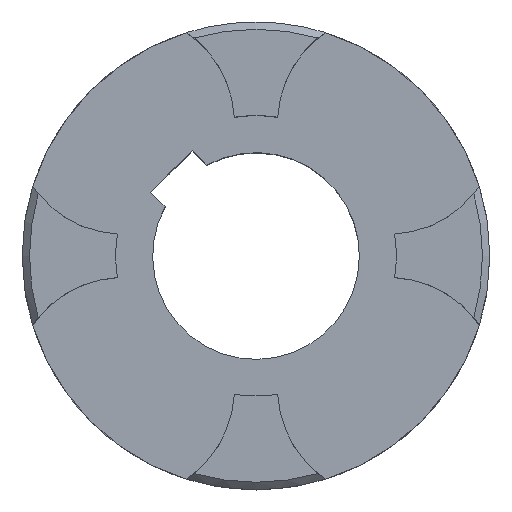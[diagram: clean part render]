
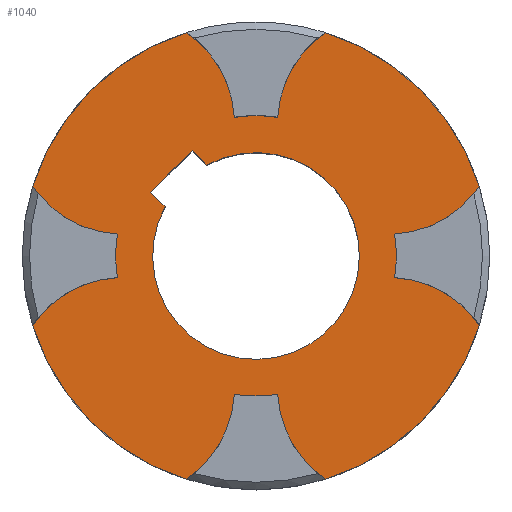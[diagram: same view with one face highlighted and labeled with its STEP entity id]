
A CAD part, top view. The second image highlights one B-rep face of the part: STEP entity #1040.
In plain terms, the highlighted planar face has unit normal (0, 0, 1).
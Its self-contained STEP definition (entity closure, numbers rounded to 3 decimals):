
#213=CARTESIAN_POINT('',(0.,0.,0.));
#214=DIRECTION('',(0.,0.,1.));
#215=DIRECTION('',(-0.988,0.155,0.));
#216=AXIS2_PLACEMENT_3D('',#213,#214,#215);
#248=CARTESIAN_POINT('',(0.,0.,0.));
#249=DIRECTION('',(0.,0.,1.));
#250=DIRECTION('',(0.988,-0.155,0.));
#251=AXIS2_PLACEMENT_3D('',#248,#249,#250);
#275=CARTESIAN_POINT('',(26.87,26.87,0.));
#276=DIRECTION('',(0.,0.,-1.));
#277=DIRECTION('',(0.822,-0.569,0.));
#278=AXIS2_PLACEMENT_3D('',#275,#276,#277);
#280=CARTESIAN_POINT('',(26.87,-26.87,0.));
#281=DIRECTION('',(0.,0.,-1.));
#282=DIRECTION('',(0.057,0.998,0.));
#283=AXIS2_PLACEMENT_3D('',#280,#281,#282);
#285=CARTESIAN_POINT('',(0.,0.,0.));
#286=DIRECTION('',(0.,0.,-1.));
#287=DIRECTION('',(0.955,-0.296,0.));
#288=AXIS2_PLACEMENT_3D('',#285,#286,#287);
#290=CARTESIAN_POINT('',(26.87,-26.87,0.));
#291=DIRECTION('',(0.,0.,-1.));
#292=DIRECTION('',(-0.569,-0.822,0.));
#293=AXIS2_PLACEMENT_3D('',#290,#291,#292);
#295=CARTESIAN_POINT('',(0.,0.,0.));
#296=DIRECTION('',(0.,0.,-1.));
#297=DIRECTION('',(0.155,-0.988,0.));
#298=AXIS2_PLACEMENT_3D('',#295,#296,#297);
#300=CARTESIAN_POINT('',(-26.87,-26.87,0.));
#301=DIRECTION('',(0.,0.,-1.));
#302=DIRECTION('',(0.998,-0.057,0.));
#303=AXIS2_PLACEMENT_3D('',#300,#301,#302);
#305=CARTESIAN_POINT('',(0.,0.,0.));
#306=DIRECTION('',(0.,0.,-1.));
#307=DIRECTION('',(-0.296,-0.955,0.));
#308=AXIS2_PLACEMENT_3D('',#305,#306,#307);
#310=CARTESIAN_POINT('',(-26.87,-26.87,0.));
#311=DIRECTION('',(0.,0.,-1.));
#312=DIRECTION('',(-0.822,0.569,0.));
#313=AXIS2_PLACEMENT_3D('',#310,#311,#312);
#315=CARTESIAN_POINT('',(-26.87,26.87,0.));
#316=DIRECTION('',(0.,0.,-1.));
#317=DIRECTION('',(-0.057,-0.998,0.));
#318=AXIS2_PLACEMENT_3D('',#315,#316,#317);
#320=CARTESIAN_POINT('',(0.,0.,0.));
#321=DIRECTION('',(0.,0.,-1.));
#322=DIRECTION('',(-0.955,0.296,0.));
#323=AXIS2_PLACEMENT_3D('',#320,#321,#322);
#325=CARTESIAN_POINT('',(-26.87,26.87,0.));
#326=DIRECTION('',(0.,0.,-1.));
#327=DIRECTION('',(0.569,0.822,0.));
#328=AXIS2_PLACEMENT_3D('',#325,#326,#327);
#330=CARTESIAN_POINT('',(0.,0.,0.));
#331=DIRECTION('',(0.,0.,-1.));
#332=DIRECTION('',(-0.155,0.988,0.));
#333=AXIS2_PLACEMENT_3D('',#330,#331,#332);
#335=CARTESIAN_POINT('',(26.87,26.87,0.));
#336=DIRECTION('',(0.,0.,-1.));
#337=DIRECTION('',(-0.998,0.057,0.));
#338=AXIS2_PLACEMENT_3D('',#335,#336,#337);
#340=CARTESIAN_POINT('',(0.,0.,0.));
#341=DIRECTION('',(0.,0.,-1.));
#342=DIRECTION('',(0.296,0.955,0.));
#343=AXIS2_PLACEMENT_3D('',#340,#341,#342);
#345=DIRECTION('',(-0.707,0.707,0.));
#346=VECTOR('',#345,4.175);
#347=CARTESIAN_POINT('',(-18.473,9.988,0.));
#348=LINE('',#347,#346);
#349=DIRECTION('',(0.707,-0.707,0.));
#350=VECTOR('',#349,4.175);
#351=CARTESIAN_POINT('',(-12.94,21.425,0.));
#352=LINE('',#351,#350);
#353=DIRECTION('',(0.707,0.707,0.));
#354=VECTOR('',#353,12.);
#355=CARTESIAN_POINT('',(-21.425,12.94,0.));
#356=LINE('',#355,#354);
#424=CARTESIAN_POINT('',(0.,0.,0.));
#425=DIRECTION('',(0.,0.,-1.));
#426=DIRECTION('',(-0.476,0.88,0.));
#427=AXIS2_PLACEMENT_3D('',#424,#425,#426);
#556=CARTESIAN_POINT('',(45.37,14.064,0.));
#558=VERTEX_POINT('',#556);
#560=CARTESIAN_POINT('',(14.064,45.37,0.));
#562=VERTEX_POINT('',#560);
#572=CARTESIAN_POINT('',(14.064,-45.37,0.));
#574=VERTEX_POINT('',#572);
#576=CARTESIAN_POINT('',(45.37,-14.064,0.));
#578=VERTEX_POINT('',#576);
#596=CARTESIAN_POINT('',(-45.37,-14.064,0.));
#598=VERTEX_POINT('',#596);
#600=CARTESIAN_POINT('',(-14.064,-45.37,0.));
#602=VERTEX_POINT('',#600);
#612=CARTESIAN_POINT('',(-14.064,45.37,0.));
#614=VERTEX_POINT('',#612);
#616=CARTESIAN_POINT('',(-45.37,14.064,0.));
#618=VERTEX_POINT('',#616);
#635=CARTESIAN_POINT('',(-4.408,28.157,0.));
#636=CARTESIAN_POINT('',(4.408,28.157,0.));
#637=VERTEX_POINT('',#635);
#638=VERTEX_POINT('',#636);
#639=CARTESIAN_POINT('',(4.408,-28.157,0.));
#640=CARTESIAN_POINT('',(-4.408,-28.157,0.));
#641=VERTEX_POINT('',#639);
#642=VERTEX_POINT('',#640);
#643=CARTESIAN_POINT('',(-28.157,4.408,0.));
#644=CARTESIAN_POINT('',(-28.157,-4.408,0.));
#645=VERTEX_POINT('',#643);
#646=VERTEX_POINT('',#644);
#647=CARTESIAN_POINT('',(28.157,-4.408,0.));
#648=CARTESIAN_POINT('',(28.157,4.408,0.));
#649=VERTEX_POINT('',#647);
#650=VERTEX_POINT('',#648);
#671=CARTESIAN_POINT('',(-18.473,9.988,0.));
#672=CARTESIAN_POINT('',(-21.425,12.94,0.));
#673=VERTEX_POINT('',#671);
#674=VERTEX_POINT('',#672);
#675=CARTESIAN_POINT('',(-12.94,21.425,0.));
#676=VERTEX_POINT('',#675);
#677=CARTESIAN_POINT('',(-9.988,18.473,0.));
#678=VERTEX_POINT('',#677);
#1000=CARTESIAN_POINT('',(0.,0.,0.));
#1001=DIRECTION('',(0.,0.,-1.));
#1002=DIRECTION('',(0.,-1.,0.));
#1003=AXIS2_PLACEMENT_3D('',#1000,#1001,#1002);
#1004=PLANE('',#1003);
#1006=ORIENTED_EDGE('',*,*,#1005,.T.);
#1007=ORIENTED_EDGE('',*,*,#975,.F.);
#1008=ORIENTED_EDGE('',*,*,#932,.T.);
#1009=ORIENTED_EDGE('',*,*,#829,.T.);
#1011=ORIENTED_EDGE('',*,*,#1010,.T.);
#1012=ORIENTED_EDGE('',*,*,#991,.T.);
#1014=ORIENTED_EDGE('',*,*,#1013,.T.);
#1015=ORIENTED_EDGE('',*,*,#732,.T.);
#1017=ORIENTED_EDGE('',*,*,#1016,.T.);
#1018=ORIENTED_EDGE('',*,*,#942,.F.);
#1020=ORIENTED_EDGE('',*,*,#1019,.T.);
#1021=ORIENTED_EDGE('',*,*,#724,.T.);
#1023=ORIENTED_EDGE('',*,*,#1022,.T.);
#1024=ORIENTED_EDGE('',*,*,#960,.T.);
#1026=ORIENTED_EDGE('',*,*,#1025,.T.);
#1027=ORIENTED_EDGE('',*,*,#837,.T.);
#1028=EDGE_LOOP('',(#1006,#1007,#1008,#1009,#1011,#1012,#1014,#1015,#1017,#1018,
#1020,#1021,#1023,#1024,#1026,#1027));
#1029=FACE_OUTER_BOUND('',#1028,.F.);
#1031=ORIENTED_EDGE('',*,*,#1030,.F.);
#1033=ORIENTED_EDGE('',*,*,#1032,.F.);
#1035=ORIENTED_EDGE('',*,*,#1034,.F.);
#1037=ORIENTED_EDGE('',*,*,#1036,.F.);
#1038=EDGE_LOOP('',(#1031,#1033,#1035,#1037));
#1039=FACE_BOUND('',#1038,.F.);
#1040=ADVANCED_FACE('',(#1029,#1039),#1004,.F.);
#217=CIRCLE('',#216,28.5);
#252=CIRCLE('',#251,28.5);
#279=CIRCLE('',#278,22.5);
#284=CIRCLE('',#283,22.5);
#289=CIRCLE('',#288,47.5);
#294=CIRCLE('',#293,22.5);
#299=CIRCLE('',#298,28.5);
#304=CIRCLE('',#303,22.5);
#309=CIRCLE('',#308,47.5);
#314=CIRCLE('',#313,22.5);
#319=CIRCLE('',#318,22.5);
#324=CIRCLE('',#323,47.5);
#329=CIRCLE('',#328,22.5);
#334=CIRCLE('',#333,28.5);
#339=CIRCLE('',#338,22.5);
#344=CIRCLE('',#343,47.5);
#428=CIRCLE('',#427,21.);
#724=EDGE_CURVE('',#618,#614,#324,.T.);
#732=EDGE_CURVE('',#602,#598,#309,.T.);
#829=EDGE_CURVE('',#578,#574,#289,.T.);
#837=EDGE_CURVE('',#562,#558,#344,.T.);
#932=EDGE_CURVE('',#649,#578,#284,.T.);
#942=EDGE_CURVE('',#645,#646,#217,.T.);
#960=EDGE_CURVE('',#637,#638,#334,.T.);
#975=EDGE_CURVE('',#649,#650,#252,.T.);
#991=EDGE_CURVE('',#641,#642,#299,.T.);
#1005=EDGE_CURVE('',#558,#650,#279,.T.);
#1010=EDGE_CURVE('',#574,#641,#294,.T.);
#1013=EDGE_CURVE('',#642,#602,#304,.T.);
#1016=EDGE_CURVE('',#598,#646,#314,.T.);
#1019=EDGE_CURVE('',#645,#618,#319,.T.);
#1022=EDGE_CURVE('',#614,#637,#329,.T.);
#1025=EDGE_CURVE('',#638,#562,#339,.T.);
#1030=EDGE_CURVE('',#673,#674,#348,.T.);
#1032=EDGE_CURVE('',#678,#673,#428,.T.);
#1034=EDGE_CURVE('',#676,#678,#352,.T.);
#1036=EDGE_CURVE('',#674,#676,#356,.T.);
